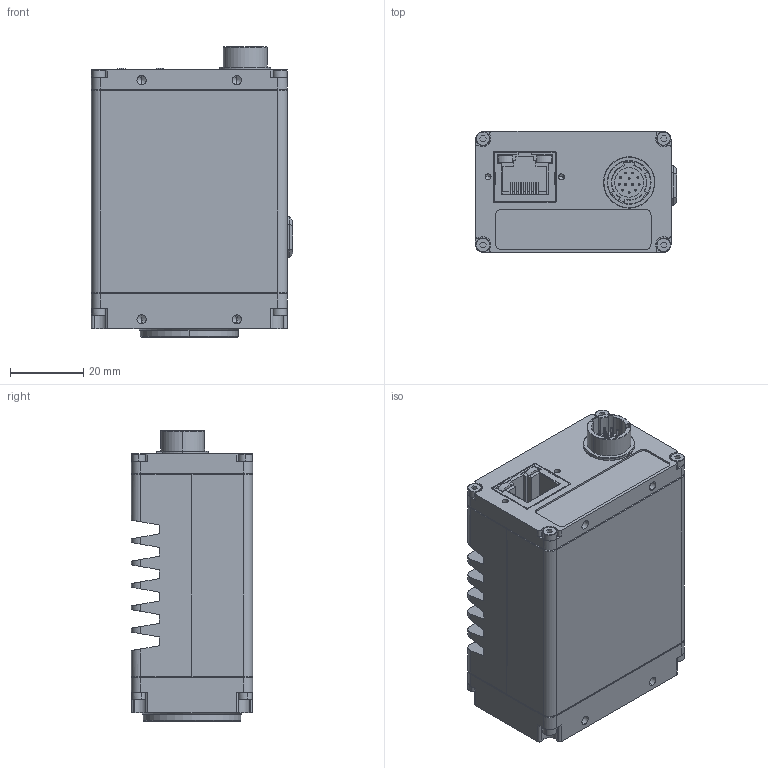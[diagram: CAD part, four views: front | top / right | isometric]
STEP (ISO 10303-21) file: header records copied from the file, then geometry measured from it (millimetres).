
FILE_DESCRIPTION (( 'STEP AP214' ), '1' );
FILE_NAME ('GT2460C CS-MOUNT.STEP', '2018-01-12T21:13:45', ( '' ), ( '' ), 'SwSTEP 2.0', 'SolidWorks 2017', '' );
FILE_SCHEMA (( 'AUTOMOTIVE_DESIGN' ));
Length unit declared in the file: millimetre
Products named in the file (6): 110054B-A IR FILTER SUPPORT; IR FILTER ASSEMBLY; GT2460C CS-MOUNT; GT BODY ASSY SHORT - defeatured_GT2460; CS-MOUNT RING; 440002-IR CUT FILTER 22MM DIA
Assembly tree (5 placements, depth 3):
  GT2460C CS-MOUNT
    GT BODY ASSY SHORT - defeatured_GT2460
    IR FILTER ASSEMBLY
      110054B-A IR FILTER SUPPORT
      440002-IR CUT FILTER 22MM DIA
    CS-MOUNT RING
Bounding box: 54.84 x 33.02 x 79.11 mm (x, y, z)
Volume: 98805.8 mm3; surface area: 35338.2 mm2
Topology: 4 solids, 16 shells, 1236 faces, 3213 edges, 2011 vertices
Faces by surface type: plane 686, cylinder 329, cone 162, torus 35, sphere 24
Entity records: 46118 total; most frequent: CARTESIAN_POINT 6845, DIRECTION 6379, ORIENTED_EDGE 6242, EDGE_CURVE 3121, LINE 2233, VECTOR 2233, AXIS2_PLACEMENT_3D 2073, VERTEX_POINT 1987
